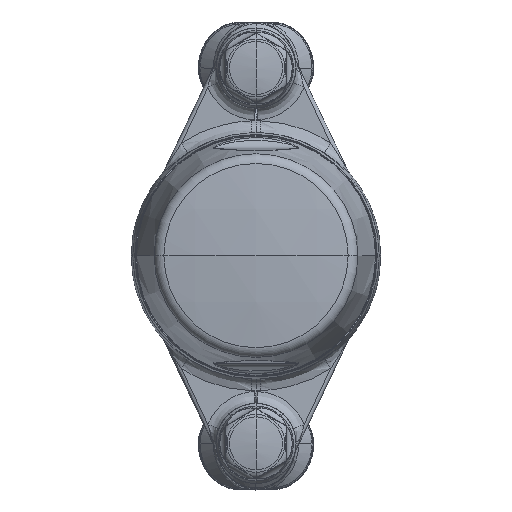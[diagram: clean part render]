
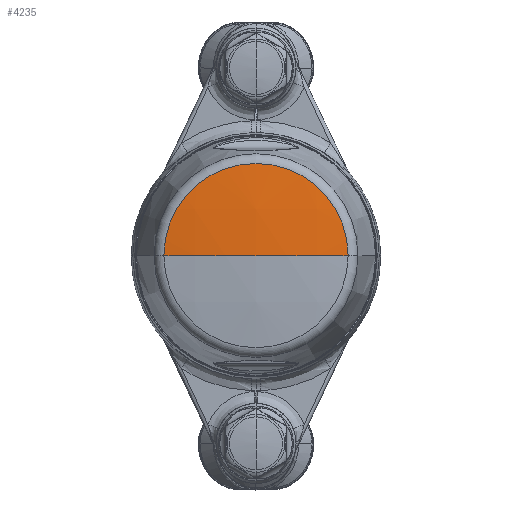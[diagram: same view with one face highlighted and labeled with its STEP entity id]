
A CAD part, top view. The second image highlights one B-rep face of the part: STEP entity #4235.
In plain terms, the highlighted spherical face has radius 200 mm.
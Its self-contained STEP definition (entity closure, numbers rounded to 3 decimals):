
#3194 = DIRECTION ( 'NONE',  ( -1., 0., 0. ) ) ;
#3261 = CARTESIAN_POINT ( 'NONE',  ( 24.283, 0., 40.272 ) ) ;
#4235 = ADVANCED_FACE ( 'NONE', ( #7405 ), #31324, .T. ) ;
#6734 = CARTESIAN_POINT ( 'NONE',  ( -24.283, 0., 40.272 ) ) ;
#6793 = DIRECTION ( 'NONE',  ( 0., -1., 0. ) ) ;
#7405 = FACE_OUTER_BOUND ( 'NONE', #23104, .T. ) ;
#7690 = ORIENTED_EDGE ( 'NONE', *, *, #9490, .T. ) ;
#7912 = DIRECTION ( 'NONE',  ( 0., -1., 0. ) ) ;
#8240 = CIRCLE ( 'NONE', #14809, 24.283 ) ;
#9490 = EDGE_CURVE ( 'NONE', #11750, #35269, #26798, .T. ) ;
#11750 = VERTEX_POINT ( 'NONE', #41551 ) ;
#14303 = AXIS2_PLACEMENT_3D ( 'NONE', #43150, #7912, #23601 ) ;
#14458 = CIRCLE ( 'NONE', #48141, 200. ) ;
#14809 = AXIS2_PLACEMENT_3D ( 'NONE', #50720, #27310, #27836 ) ;
#19433 = AXIS2_PLACEMENT_3D ( 'NONE', #38420, #29934, #3194 ) ;
#22097 = EDGE_CURVE ( 'NONE', #11750, #32861, #14458, .T. ) ;
#23104 = EDGE_LOOP ( 'NONE', ( #34124, #7690, #49533 ) ) ;
#23601 = DIRECTION ( 'NONE',  ( 1., 0., 0. ) ) ;
#26345 = DIRECTION ( 'NONE',  ( 1., 0., 0. ) ) ;
#26798 = CIRCLE ( 'NONE', #19433, 200. ) ;
#27310 = DIRECTION ( 'NONE',  ( 0., 0., 1. ) ) ;
#27836 = DIRECTION ( 'NONE',  ( -1., 0., 0. ) ) ;
#29934 = DIRECTION ( 'NONE',  ( 0., 1., 0. ) ) ;
#30967 = EDGE_CURVE ( 'NONE', #35269, #32861, #8240, .T. ) ;
#31324 = SPHERICAL_SURFACE ( 'NONE', #14303, 200. ) ;
#32861 = VERTEX_POINT ( 'NONE', #6734 ) ;
#34124 = ORIENTED_EDGE ( 'NONE', *, *, #22097, .F. ) ;
#35269 = VERTEX_POINT ( 'NONE', #3261 ) ;
#37923 = CARTESIAN_POINT ( 'NONE',  ( 0., 0., -158.249 ) ) ;
#38420 = CARTESIAN_POINT ( 'NONE',  ( 0., 0., -158.249 ) ) ;
#41551 = CARTESIAN_POINT ( 'NONE',  ( 0., 0., 41.751 ) ) ;
#43150 = CARTESIAN_POINT ( 'NONE',  ( 0., 0., -158.249 ) ) ;
#48141 = AXIS2_PLACEMENT_3D ( 'NONE', #37923, #6793, #26345 ) ;
#49533 = ORIENTED_EDGE ( 'NONE', *, *, #30967, .T. ) ;
#50720 = CARTESIAN_POINT ( 'NONE',  ( 0., 0., 40.272 ) ) ;
